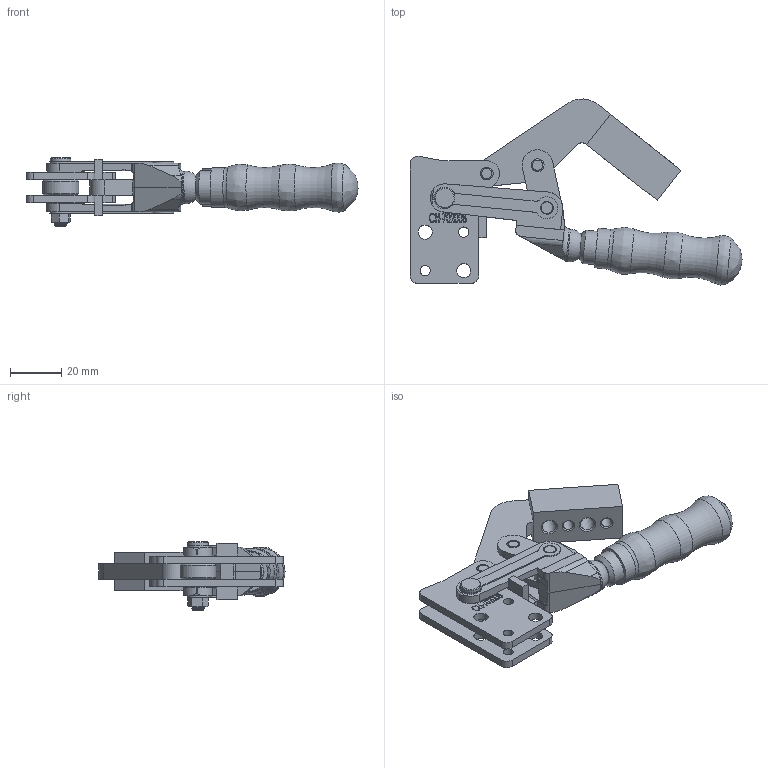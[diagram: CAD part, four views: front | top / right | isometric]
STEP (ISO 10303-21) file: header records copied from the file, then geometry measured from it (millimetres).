
FILE_DESCRIPTION(/* description */ ('STEP AP203'),/* implementation_level */ '2;1');
FILE_NAME(/* name */ 'E:\CAD_CLAMPS\Heavy duty weldables\CH-70200B_DODAC\CH-70200B_OTWARTY.stp',/* time_stamp */ '2019-03-11T14:19:47+01:00',/* author */ ('Admin'),/* organization */ ('Î¢ÈíÖÐ¹ú'),/* preprocessor_version */ 'ST-DEVELOPER v17.2',/* originating_system */ 'Autodesk Inventor 2019',/* authorisation */ '');
FILE_SCHEMA (('AUTOMOTIVE_DESIGN { 1 0 10303 214 3 1 1 }'));
Length unit declared in the file: millimetre
Products named in the file (13): CH-70200B_OTWARTY; Ì×_Ä¬ÈÏ; µ×·´_Ä¬ÈÏ; ÂÝ¸Ë_Ä¬ÈÏ_1; m5ÂÝÄ¸_Ä¬ÈÏ_1; ti_Ä¬ÈÏ_1; ÊÖ±ú_Ä¬ÈÏ_1; ¶ÌÖá_Ä¬ÈÏ; ¸ôÌ×_Ä¬ÈÏ_1; µ×Õý_Ä¬ÈÏ; Á¬¸Ë_Ä¬ÈÏ_1; Ñ¹°Ñ_Ä¬ÈÏ_1; ³¤Öá_Ä¬ÈÏ_1
Assembly tree (14 placements, depth 2):
  CH-70200B_OTWARTY
    Ì×_Ä¬ÈÏ
    µ×·´_Ä¬ÈÏ
    Á¬¸Ë_Ä¬ÈÏ_1  x2
    ÂÝ¸Ë_Ä¬ÈÏ_1
    m5ÂÝÄ¸_Ä¬ÈÏ_1
    ¶ÌÖá_Ä¬ÈÏ  x2
    ti_Ä¬ÈÏ_1
    ÊÖ±ú_Ä¬ÈÏ_1
    ¸ôÌ×_Ä¬ÈÏ_1
    µ×Õý_Ä¬ÈÏ
    Ñ¹°Ñ_Ä¬ÈÏ_1
    ³¤Öá_Ä¬ÈÏ_1
Bounding box: 129.34 x 72.47 x 26.5 mm (x, y, z)
Volume: 44457.4 mm3; surface area: 30214.6 mm2
Topology: 15 solids, 15 shells, 1217 faces, 3252 edges, 2193 vertices
Faces by surface type: plane 783, cylinder 276, bspline 106, cone 42, torus 8, sphere 2
Full cylindrical faces by diameter (mm): 0.399 x1, 2.5 x1, 4 x6, 5 x37, 5.16 x1, 5.2 x1, 5.5 x6, 8 x1, 12.517 x1, 13 x1, 14 x1, 15.5 x1
Entity records: 41465 total; most frequent: CARTESIAN_POINT 16843, ORIENTED_EDGE 5232, DIRECTION 4731, EDGE_CURVE 2616, VERTEX_POINT 1769, AXIS2_PLACEMENT_3D 1594, LINE 1543, VECTOR 1543
